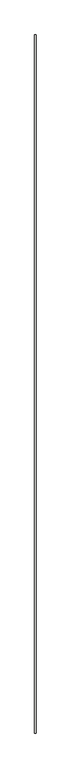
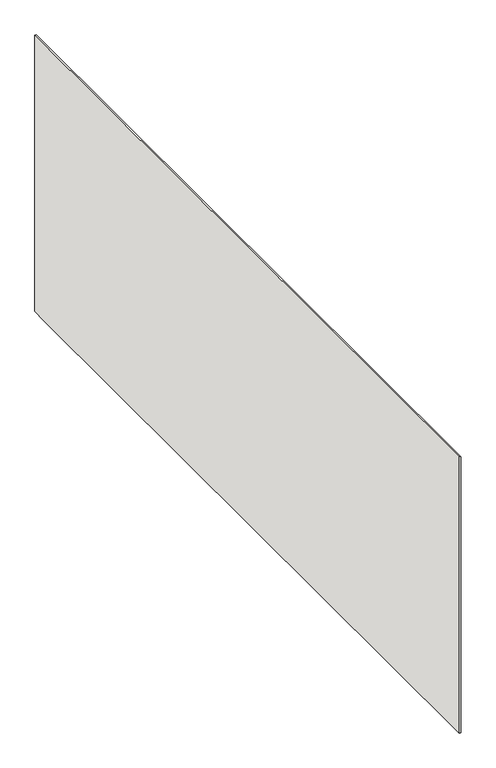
"""IFC4 building model written with IfcOpenShell, lengths in millimetres: covering geometry, 天井 1 : 天井 1."""

from ifc_helpers import new_model, si_unit, origin, place, context, project, spatial, faceted_brep, source, transform, mapped, element, save


def covering_45d0a06e(model_context):
    return source(origin(), model_context, "Body", "Brep", [
        faceted_brep([(15334.9999956, 6804.5, 1742.5), (15334.9999956, 6804.5, 954.0), (15338.9999956, 6804.5, 954.0), (15338.9999956, 6804.5, 1742.5), (15335.0, 8789.9999902, 1742.5), (15339.0, 8789.9999902, 1742.5), (15339.0, 8789.9999902, 954.0), (15335.0, 8789.9999902, 954.0), (15334.9999999, 8747.5, 954.0)], [[[0, 1, 2, 3]], [[4, 5, 6, 7]], [[1, 0, 4, 7, 8]], [[2, 1, 8, 7, 6]], [[3, 2, 6, 5]], [[0, 3, 5, 4]]]),
    ])


if __name__ == "__main__":
    model = new_model("IFC4")
    model_context = context("Model", 3, world=origin())
    ifc_project = project(units=[si_unit("LENGTHUNIT", "METRE", prefix="MILLI")], contexts=[model_context])
    site = spatial("IfcSite", under=ifc_project)
    building = spatial("IfcBuilding", under=site)
    placement = place(None, origin())
    covering_shape = covering_45d0a06e(model_context)
    element("IfcCovering", 1, ObjectType="天井 1 : 天井 1", at=placement, inside=building, context=model_context, shape_type="MappedRepresentation", body=[
        mapped(covering_shape, transform((0.0, 0.0, 0.0), x_axis=(1.0, 0.0, 0.0), y_axis=(0.0, 1.0, 0.0), z_axis=(0.0, 0.0, 1.0))),
    ])
    save(model, "model.ifc")
